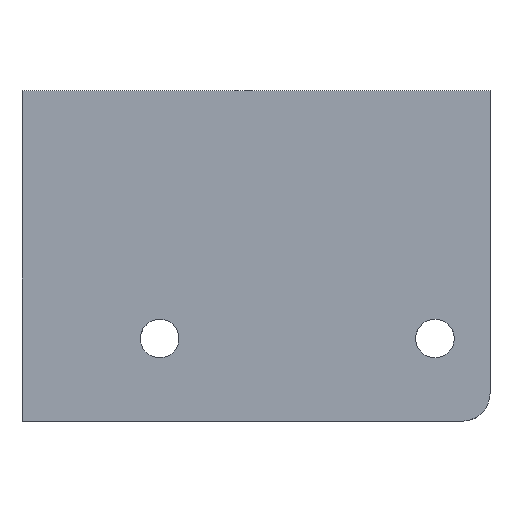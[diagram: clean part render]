
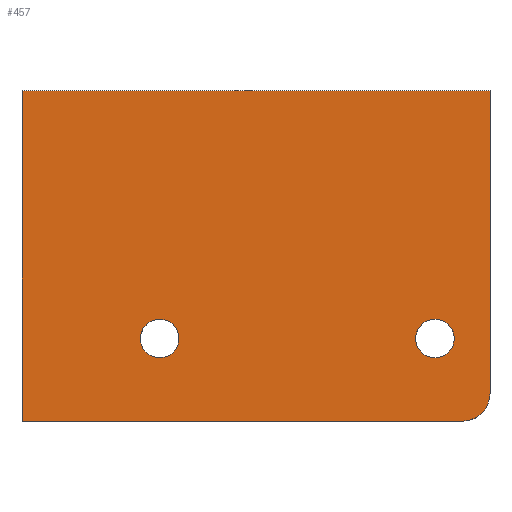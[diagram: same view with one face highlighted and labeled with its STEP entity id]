
A CAD part, top view. The second image highlights one B-rep face of the part: STEP entity #457.
In plain terms, the highlighted planar face has unit normal (0, 0, 1).
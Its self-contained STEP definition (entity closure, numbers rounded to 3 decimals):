
#218=CIRCLE('',#439,10.);
#219=CIRCLE('',#441,7.);
#220=CIRCLE('',#442,7.);
#236=ORIENTED_EDGE('',*,*,#311,.F.);
#237=ORIENTED_EDGE('',*,*,#312,.F.);
#238=ORIENTED_EDGE('',*,*,#309,.T.);
#239=ORIENTED_EDGE('',*,*,#308,.T.);
#240=ORIENTED_EDGE('',*,*,#313,.T.);
#241=ORIENTED_EDGE('',*,*,#314,.F.);
#242=ORIENTED_EDGE('',*,*,#315,.F.);
#265=VECTOR('',#364,1.);
#267=VECTOR('',#372,1.);
#268=VECTOR('',#373,1.);
#269=VECTOR('',#374,1.);
#278=LINE('',#411,#265);
#280=LINE('',#419,#267);
#281=LINE('',#420,#268);
#282=LINE('',#421,#269);
#292=VERTEX_POINT('',#407);
#293=VERTEX_POINT('',#409);
#294=VERTEX_POINT('',#413);
#295=VERTEX_POINT('',#417);
#296=VERTEX_POINT('',#418);
#297=VERTEX_POINT('',#422);
#298=VERTEX_POINT('',#424);
#308=EDGE_CURVE('',#292,#293,#278,.T.);
#309=EDGE_CURVE('',#294,#292,#218,.T.);
#311=EDGE_CURVE('',#295,#296,#280,.T.);
#312=EDGE_CURVE('',#294,#295,#281,.T.);
#313=EDGE_CURVE('',#293,#296,#282,.T.);
#314=EDGE_CURVE('',#297,#297,#219,.T.);
#315=EDGE_CURVE('',#298,#298,#220,.T.);
#323=EDGE_LOOP('',(#236,#237,#238,#239,#240));
#324=EDGE_LOOP('',(#241));
#325=EDGE_LOOP('',(#242));
#338=FACE_BOUND('',#323,.T.);
#339=FACE_BOUND('',#324,.T.);
#340=FACE_BOUND('',#325,.T.);
#364=DIRECTION('',(0.,110.,0.));
#367=DIRECTION('',(0.,0.,1.));
#368=DIRECTION('',(0.,-10.,0.));
#370=DIRECTION('',(0.,0.,1.));
#371=DIRECTION('',(0.,-1.,0.));
#372=DIRECTION('',(0.,120.,0.));
#373=DIRECTION('',(-160.,0.,0.));
#374=DIRECTION('',(-170.,0.,0.));
#375=DIRECTION('',(0.,0.,1.));
#376=DIRECTION('',(-7.,0.,0.));
#377=DIRECTION('',(0.,0.,1.));
#378=DIRECTION('',(-7.,0.,0.));
#407=CARTESIAN_POINT('',(170.,-50.,5.));
#409=CARTESIAN_POINT('',(170.,60.,5.));
#411=CARTESIAN_POINT('',(170.,-50.,5.));
#413=CARTESIAN_POINT('',(160.,-60.,5.));
#414=CARTESIAN_POINT('',(160.,-50.,5.));
#416=CARTESIAN_POINT('',(170.,60.,5.));
#417=CARTESIAN_POINT('',(0.,-60.,5.));
#418=CARTESIAN_POINT('',(0.,60.,5.));
#419=CARTESIAN_POINT('',(0.,-60.,5.));
#420=CARTESIAN_POINT('',(160.,-60.,5.));
#421=CARTESIAN_POINT('',(170.,60.,5.));
#422=CARTESIAN_POINT('',(143.,-30.,5.));
#423=CARTESIAN_POINT('',(150.,-30.,5.));
#424=CARTESIAN_POINT('',(43.,-30.,5.));
#425=CARTESIAN_POINT('',(50.,-30.,5.));
#439=AXIS2_PLACEMENT_3D('',#414,#367,#368);
#440=AXIS2_PLACEMENT_3D('',#416,#370,#371);
#441=AXIS2_PLACEMENT_3D('',#423,#375,#376);
#442=AXIS2_PLACEMENT_3D('',#425,#377,#378);
#450=PLANE('',#440);
#457=ADVANCED_FACE('',(#338,#339,#340),#450,.T.);
